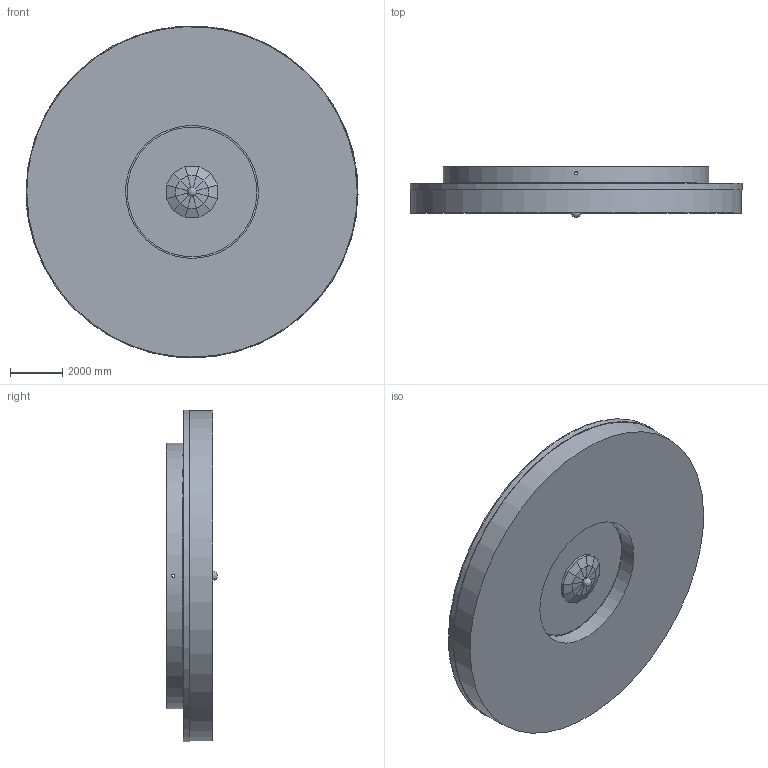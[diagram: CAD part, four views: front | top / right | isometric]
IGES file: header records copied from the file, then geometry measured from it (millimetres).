
Global section: file name: Ayla LED Flush Mount Ceiling Light- D19.7″,4; native system: 8HAutoCAD 2022 - 简体中文 (Simplified Chinese); preprocessor: Autodesk Translation Framework DWG producer (atf_dwg_producer); organization: unknown; date: 20251117.164519; units: inch
Bounding box: 12699.14 x 1952.07 x 12693.07 mm (x, y, z)
Volume: 30944378748.8 mm3; surface area: 875068096.6 mm2
Topology: 6 solids, 6 shells, 91 faces, 206 edges, 127 vertices
Faces by surface type: bspline 91
